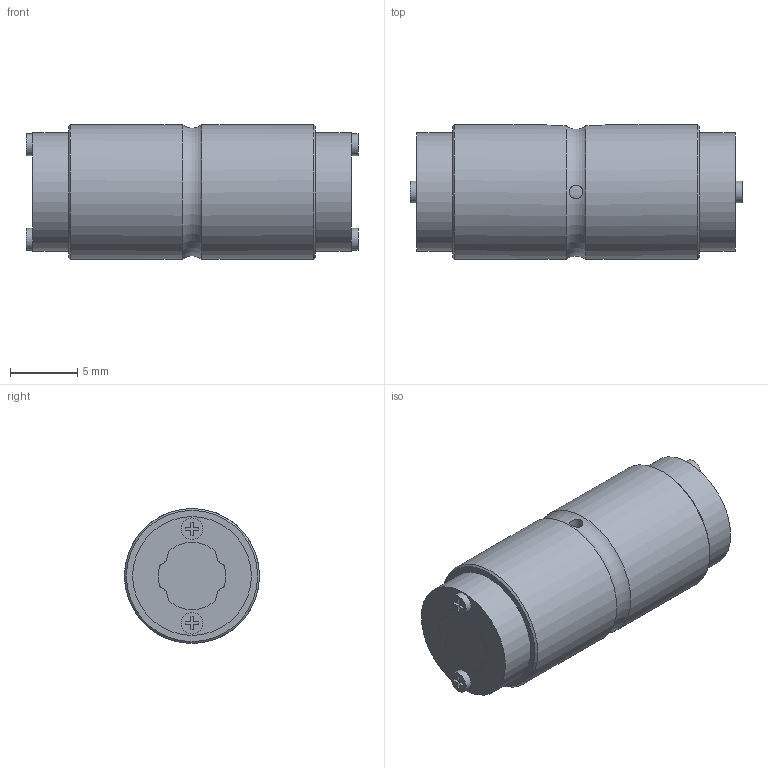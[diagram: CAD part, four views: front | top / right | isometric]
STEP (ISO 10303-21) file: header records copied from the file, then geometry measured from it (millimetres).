
FILE_DESCRIPTION(/* description */ ('STEP AP203'),/* implementation_level */ '2;1');
FILE_NAME(/* name */ 'LT5XL+23.6L(00)',/* time_stamp */ '2024-05-28T07:06:56+02:00',/* author */ ('License CC BY-ND 4.0'),/* organization */ ('CADENAS'),/* preprocessor_version */ 'ST-DEVELOPER v19.3',/* originating_system */ 'PARTsolutions',/* authorisation */ ' ');
FILE_SCHEMA (('CONFIG_CONTROL_DESIGN'));
Length unit declared in the file: millimetre
Products named in the file (3): LT5XL+23.6L(00); 1LT5XL 23.6Shaft; 1LT5XL Cylindar
Assembly tree (2 placements, depth 2):
  LT5XL+23.6L(00)
    1LT5XL 23.6Shaft
    1LT5XL Cylindar
Bounding box: 24.6 x 10 x 10 mm (x, y, z)
Volume: 1742 mm3; surface area: 1665.4 mm2
Topology: 2 solids, 2 shells, 120 faces, 320 edges, 214 vertices
Faces by surface type: plane 73, cylinder 44, cone 2, torus 1
Full cylindrical faces by diameter (mm): 1 x2, 1.6 x4, 8.8 x2, 10 x2
Entity records: 3761 total; most frequent: CARTESIAN_POINT 693, DIRECTION 624, ORIENTED_EDGE 604, EDGE_CURVE 302, LINE 210, VECTOR 210, VERTEX_POINT 208, AXIS2_PLACEMENT_3D 207
